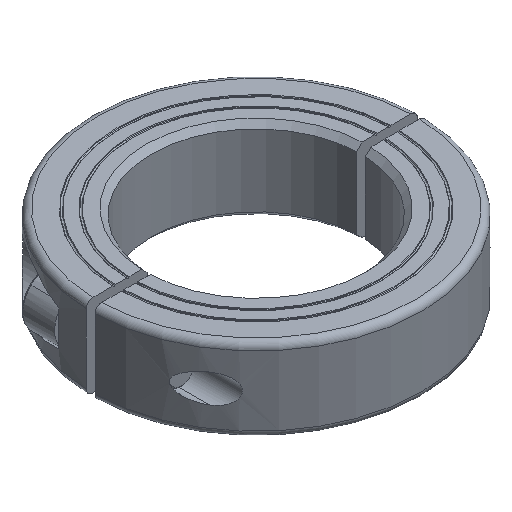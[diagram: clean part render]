
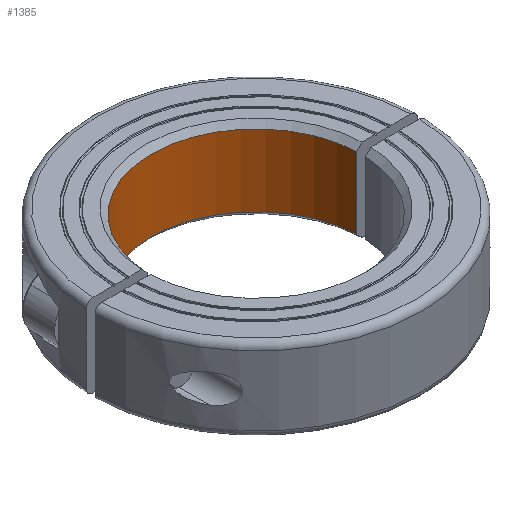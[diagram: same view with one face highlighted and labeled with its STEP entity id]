
A CAD part, isometric view. The second image highlights one B-rep face of the part: STEP entity #1385.
In plain terms, the highlighted cylindrical face has radius 19 mm (diameter 38 mm), a partial arc.
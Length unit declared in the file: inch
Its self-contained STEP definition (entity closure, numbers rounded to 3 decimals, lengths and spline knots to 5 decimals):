
#168=DIRECTION('',(0.,0.,-1.));
#169=VECTOR('',#168,0.5118);
#170=CARTESIAN_POINT('',(0.74738,0.0313,
0.55118));
#171=LINE('',#170,#169);
#260=CARTESIAN_POINT('',(0.,0.,0.55118));
#261=DIRECTION('',(0.,0.,-1.));
#262=DIRECTION('',(-0.999,0.042,0.));
#263=AXIS2_PLACEMENT_3D('',#260,#261,#262);
#265=CARTESIAN_POINT('',(0.,0.,0.03937));
#266=DIRECTION('',(0.,0.,1.));
#267=DIRECTION('',(0.999,0.042,0.));
#268=AXIS2_PLACEMENT_3D('',#265,#266,#267);
#341=DIRECTION('',(0.,0.,1.));
#342=VECTOR('',#341,0.5118);
#343=CARTESIAN_POINT('',(-0.74738,0.0313,
0.03938));
#344=LINE('',#343,#342);
#345=CARTESIAN_POINT('',(-0.74738,0.0313,
0.03938));
#893=CARTESIAN_POINT('',(0.74738,0.0313,
0.55118));
#894=CARTESIAN_POINT('',(0.74738,0.0313,
0.03938));
#895=VERTEX_POINT('',#893);
#896=VERTEX_POINT('',#894);
#926=CARTESIAN_POINT('',(-0.74738,0.0313,
0.55118));
#927=VERTEX_POINT('',#926);
#928=VERTEX_POINT('',#345);
#1372=CARTESIAN_POINT('',(0.,0.,0.55118));
#1373=DIRECTION('',(0.,0.,-1.));
#1374=DIRECTION('',(-1.,0.,0.));
#1375=AXIS2_PLACEMENT_3D('',#1372,#1373,#1374);
#1376=CYLINDRICAL_SURFACE('',#1375,0.74803);
#1378=ORIENTED_EDGE('',*,*,#1377,.T.);
#1380=ORIENTED_EDGE('',*,*,#1379,.T.);
#1381=ORIENTED_EDGE('',*,*,#1356,.T.);
#1382=ORIENTED_EDGE('',*,*,#1171,.T.);
#1383=EDGE_LOOP('',(#1378,#1380,#1381,#1382));
#1384=FACE_OUTER_BOUND('',#1383,.F.);
#264=CIRCLE('',#263,0.74803);
#269=CIRCLE('',#268,0.74803);
#1171=EDGE_CURVE('',#895,#896,#171,.T.);
#1356=EDGE_CURVE('',#927,#895,#264,.T.);
#1377=EDGE_CURVE('',#896,#928,#269,.T.);
#1379=EDGE_CURVE('',#928,#927,#344,.T.);
#1385=ADVANCED_FACE('',(#1384),#1376,.F.);
